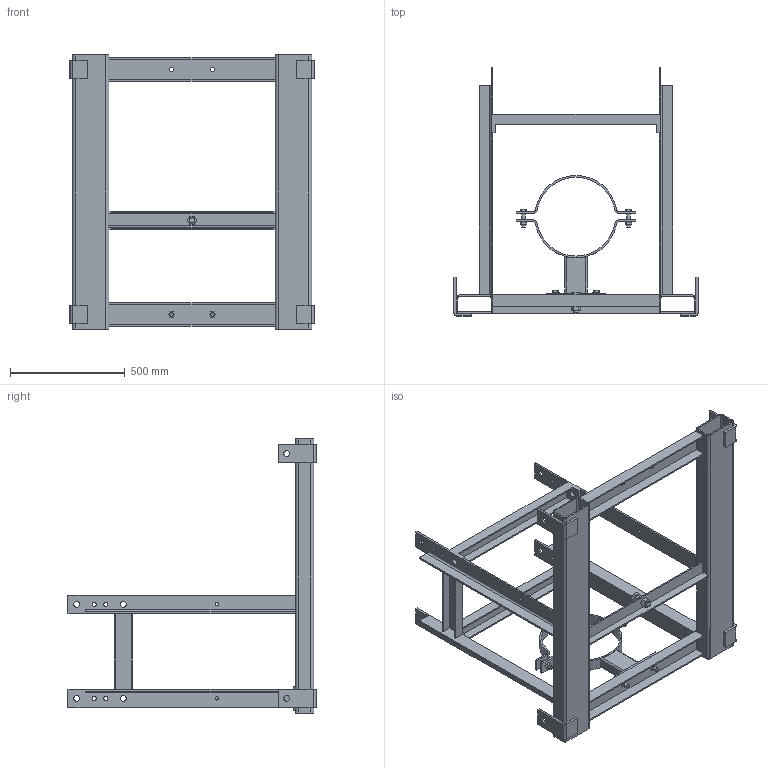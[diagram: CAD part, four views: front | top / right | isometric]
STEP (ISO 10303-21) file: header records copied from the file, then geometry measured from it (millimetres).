
FILE_DESCRIPTION(/* description */ ('VIC VALVE DIVERTER OPTIONAL SUPPORT FRAME'),/* implementation_level */ '2;1');
FILE_NAME(/* name */ 'C:\Files for Export\Optional Support frame\STEP\Victaulic_IPS_Valve Diverter_Optional Support Frame\Victaulic_IPS_Valve Diverter_Optional Support Frame_8 (200).stp',/* time_stamp */ '2024-11-26T12:31:32+01:00',/* author */ ('kkamble'),/* organization */ ('Victaulic'),/* preprocessor_version */ 'ST-DEVELOPER v18.1',/* originating_system */ 'Autodesk Inventor 2020',/* authorisation */ '');
FILE_SCHEMA (('AUTOMOTIVE_DESIGN { 1 0 10303 214 3 1 1 }'));
Length unit declared in the file: inch
Products named in the file (1): Frame-08.0
Bounding box: 1064.01 x 1080.52 x 1194.05 mm (x, y, z)
Volume: 17168251.6 mm3; surface area: 4907266.2 mm2
Topology: 1 solids, 3 shells, 371 faces, 1072 edges, 700 vertices
Faces by surface type: plane 283, cylinder 86, cone 2
Full cylindrical faces by diameter (mm): 13.97 x4, 16.002 x8, 18.034 x12, 24.13 x2, 25.4 x12, 29.997 x4
Entity records: 12722 total; most frequent: CARTESIAN_POINT 2180, ORIENTED_EDGE 2144, DIRECTION 2034, EDGE_CURVE 1072, LINE 846, VECTOR 846, VERTEX_POINT 700, AXIS2_PLACEMENT_3D 594
